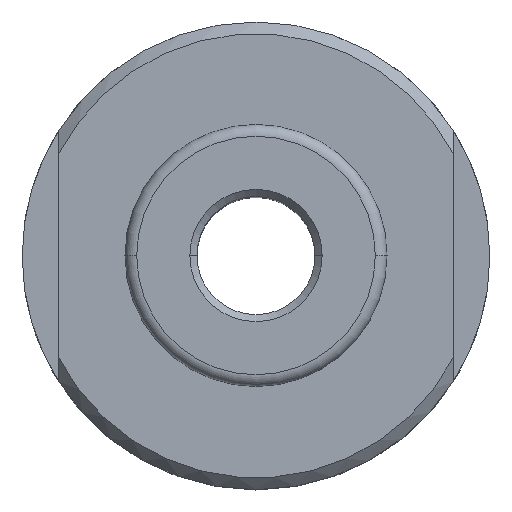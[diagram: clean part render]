
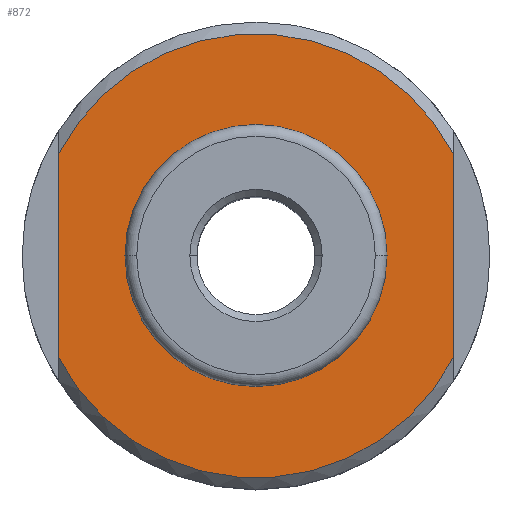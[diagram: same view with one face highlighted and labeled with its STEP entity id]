
A CAD part, top view. The second image highlights one B-rep face of the part: STEP entity #872.
In plain terms, the highlighted planar face has unit normal (0, 0, 1).
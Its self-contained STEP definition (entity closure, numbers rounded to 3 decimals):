
#37 = VERTEX_POINT ( 'NONE', #748 ) ;
#84 = CARTESIAN_POINT ( 'NONE',  ( 8.35, 4.317, 17.7 ) ) ;
#104 = CIRCLE ( 'NONE', #1372, 4.5 ) ;
#134 = DIRECTION ( 'NONE',  ( -1., 0., 0. ) ) ;
#135 = VECTOR ( 'NONE', #329, 1000. ) ;
#173 = DIRECTION ( 'NONE',  ( -1., 0., 0. ) ) ;
#231 = DIRECTION ( 'NONE',  ( 0., 0., 1. ) ) ;
#329 = DIRECTION ( 'NONE',  ( 0., 1., 0. ) ) ;
#330 = DIRECTION ( 'NONE',  ( -1., 0., 0. ) ) ;
#349 = EDGE_CURVE ( 'NONE', #1450, #1625, #889, .T. ) ;
#384 = CARTESIAN_POINT ( 'NONE',  ( 8.35, -4.317, 17.7 ) ) ;
#491 = LINE ( 'NONE', #1318, #135 ) ;
#533 = CARTESIAN_POINT ( 'NONE',  ( -8.35, -4.317, 17.7 ) ) ;
#548 = CARTESIAN_POINT ( 'NONE',  ( 0., 0., 17.7 ) ) ;
#569 = EDGE_LOOP ( 'NONE', ( #867, #1316, #1039, #1711 ) ) ;
#596 = EDGE_CURVE ( 'NONE', #1759, #1055, #1945, .T. ) ;
#681 = CARTESIAN_POINT ( 'NONE',  ( 0., 0., 17.7 ) ) ;
#748 = CARTESIAN_POINT ( 'NONE',  ( -4.5, 0., 17.7 ) ) ;
#797 = DIRECTION ( 'NONE',  ( 0., 1., 0. ) ) ;
#817 = CARTESIAN_POINT ( 'NONE',  ( 0., 0., 17.7 ) ) ;
#867 = ORIENTED_EDGE ( 'NONE', *, *, #2083, .F. ) ;
#872 = ADVANCED_FACE ( 'NONE', ( #1023, #2049 ), #2072, .F. ) ;
#889 = CIRCLE ( 'NONE', #2132, 9.4 ) ;
#924 = CARTESIAN_POINT ( 'NONE',  ( 0., 0., 17.7 ) ) ;
#978 = AXIS2_PLACEMENT_3D ( 'NONE', #817, #1808, #134 ) ;
#1023 = FACE_BOUND ( 'NONE', #1730, .T. ) ;
#1039 = ORIENTED_EDGE ( 'NONE', *, *, #1607, .T. ) ;
#1055 = VERTEX_POINT ( 'NONE', #384 ) ;
#1066 = EDGE_CURVE ( 'NONE', #37, #1094, #1221, .T. ) ;
#1079 = AXIS2_PLACEMENT_3D ( 'NONE', #1573, #1583, #330 ) ;
#1094 = VERTEX_POINT ( 'NONE', #2144 ) ;
#1170 = VECTOR ( 'NONE', #797, 1000. ) ;
#1171 = LINE ( 'NONE', #2169, #1170 ) ;
#1221 = CIRCLE ( 'NONE', #1793, 4.5 ) ;
#1316 = ORIENTED_EDGE ( 'NONE', *, *, #596, .T. ) ;
#1318 = CARTESIAN_POINT ( 'NONE',  ( 8.35, 0., 17.7 ) ) ;
#1366 = DIRECTION ( 'NONE',  ( 0., 0., -1. ) ) ;
#1372 = AXIS2_PLACEMENT_3D ( 'NONE', #681, #1366, #173 ) ;
#1450 = VERTEX_POINT ( 'NONE', #84 ) ;
#1532 = ORIENTED_EDGE ( 'NONE', *, *, #1066, .T. ) ;
#1536 = CARTESIAN_POINT ( 'NONE',  ( -8.35, 4.317, 17.7 ) ) ;
#1573 = CARTESIAN_POINT ( 'NONE',  ( 4.5, 0., 17.7 ) ) ;
#1583 = DIRECTION ( 'NONE',  ( 0., 0., -1. ) ) ;
#1607 = EDGE_CURVE ( 'NONE', #1055, #1450, #491, .T. ) ;
#1625 = VERTEX_POINT ( 'NONE', #1536 ) ;
#1711 = ORIENTED_EDGE ( 'NONE', *, *, #349, .T. ) ;
#1730 = EDGE_LOOP ( 'NONE', ( #1532, #1868 ) ) ;
#1759 = VERTEX_POINT ( 'NONE', #533 ) ;
#1762 = DIRECTION ( 'NONE',  ( 0., 0., -1. ) ) ;
#1787 = DIRECTION ( 'NONE',  ( -1., 0., 0. ) ) ;
#1793 = AXIS2_PLACEMENT_3D ( 'NONE', #548, #1762, #2157 ) ;
#1808 = DIRECTION ( 'NONE',  ( 0., 0., 1. ) ) ;
#1868 = ORIENTED_EDGE ( 'NONE', *, *, #2141, .T. ) ;
#1945 = CIRCLE ( 'NONE', #978, 9.4 ) ;
#2049 = FACE_OUTER_BOUND ( 'NONE', #569, .T. ) ;
#2072 = PLANE ( 'NONE',  #1079 ) ;
#2083 = EDGE_CURVE ( 'NONE', #1759, #1625, #1171, .T. ) ;
#2132 = AXIS2_PLACEMENT_3D ( 'NONE', #924, #231, #1787 ) ;
#2141 = EDGE_CURVE ( 'NONE', #1094, #37, #104, .T. ) ;
#2144 = CARTESIAN_POINT ( 'NONE',  ( 4.5, 0., 17.7 ) ) ;
#2157 = DIRECTION ( 'NONE',  ( -1., 0., 0. ) ) ;
#2169 = CARTESIAN_POINT ( 'NONE',  ( -8.35, 0., 17.7 ) ) ;
